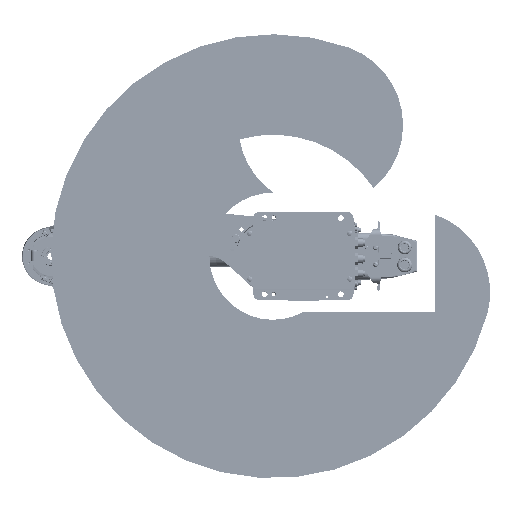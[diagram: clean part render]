
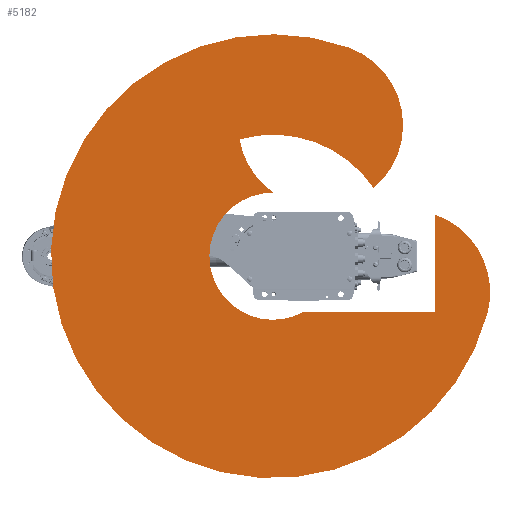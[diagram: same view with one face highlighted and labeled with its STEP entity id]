
A CAD part, front view. The second image highlights one B-rep face of the part: STEP entity #5182.
In plain terms, the highlighted planar face has unit normal (0, -1, 0).
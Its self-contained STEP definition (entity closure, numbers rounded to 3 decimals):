
#5182 = ADVANCED_FACE( '', ( #14228 ), #14229, .F. );
#14228 = FACE_OUTER_BOUND( '', #28487, .T. );
#14229 = PLANE( '', #28488 );
#28487 = EDGE_LOOP( '', ( #46027, #46028, #46029, #46030, #46031, #46032, #46033, #46034 ) );
#28488 = AXIS2_PLACEMENT_3D( '', #46035, #46036, #46037 );
#46027 = ORIENTED_EDGE( '', *, *, #78997, .T. );
#46028 = ORIENTED_EDGE( '', *, *, #79329, .F. );
#46029 = ORIENTED_EDGE( '', *, *, #79330, .F. );
#46030 = ORIENTED_EDGE( '', *, *, #79331, .F. );
#46031 = ORIENTED_EDGE( '', *, *, #79332, .F. );
#46032 = ORIENTED_EDGE( '', *, *, #79333, .T. );
#46033 = ORIENTED_EDGE( '', *, *, #79334, .T. );
#46034 = ORIENTED_EDGE( '', *, *, #79335, .T. );
#46035 = CARTESIAN_POINT( '', ( 28.47, 0., 106.252 ) );
#46036 = DIRECTION( '', ( 0., 1., 0. ) );
#46037 = DIRECTION( '', ( 0., 0., 1. ) );
#78997 = EDGE_CURVE( '', #93656, #93657, #93658, .T. );
#79329 = EDGE_CURVE( '', #94217, #93657, #94218, .T. );
#79330 = EDGE_CURVE( '', #94219, #94217, #94220, .T. );
#79331 = EDGE_CURVE( '', #94221, #94219, #94222, .T. );
#79332 = EDGE_CURVE( '', #94223, #94221, #94224, .T. );
#79333 = EDGE_CURVE( '', #94223, #94225, #94226, .T. );
#79334 = EDGE_CURVE( '', #94225, #94227, #94228, .T. );
#79335 = EDGE_CURVE( '', #94227, #93656, #94229, .T. );
#93656 = VERTEX_POINT( '', #115019 );
#93657 = VERTEX_POINT( '', #115020 );
#93658 = CIRCLE( '', #115021, 191.57 );
#94217 = VERTEX_POINT( '', #115977 );
#94218 = CIRCLE( '', #115978, 130. );
#94219 = VERTEX_POINT( '', #115979 );
#94220 = CIRCLE( '', #115980, 350. );
#94221 = VERTEX_POINT( '', #115981 );
#94222 = CIRCLE( '', #115982, 130. );
#94223 = VERTEX_POINT( '', #115983 );
#94224 = LINE( '', #115984, #115985 );
#94225 = VERTEX_POINT( '', #115986 );
#94226 = LINE( '', #115987, #115988 );
#94227 = VERTEX_POINT( '', #115989 );
#94228 = CIRCLE( '', #115990, 100.24 );
#94229 = CIRCLE( '', #115991, 130. );
#115019 = CARTESIAN_POINT( '', ( -184.156, 0., -52.78 ) );
#115020 = CARTESIAN_POINT( '', ( -107.145, 0., 158.805 ) );
#115021 = AXIS2_PLACEMENT_3D( '', #144971, #144972, #144973 );
#115977 = CARTESIAN_POINT( '', ( -328.892, 0., 119.707 ) );
#115978 = AXIS2_PLACEMENT_3D( '', #145315, #145316, #145317 );
#115979 = CARTESIAN_POINT( '', ( 90.587, 0., 338.074 ) );
#115980 = AXIS2_PLACEMENT_3D( '', #145318, #145319, #145320 );
#115981 = CARTESIAN_POINT( '', ( -65.918, 0., 255. ) );
#115982 = AXIS2_PLACEMENT_3D( '', #145321, #145322, #145323 );
#115983 = CARTESIAN_POINT( '', ( 88., 0., 255. ) );
#115984 = CARTESIAN_POINT( '', ( 28.47, 0., 255. ) );
#115985 = VECTOR( '', #145324, 1000. );
#115986 = CARTESIAN_POINT( '', ( 88., 0., 48.001 ) );
#115987 = CARTESIAN_POINT( '', ( 88., 0., 255. ) );
#115988 = VECTOR( '', #145325, 1000. );
#115989 = CARTESIAN_POINT( '', ( -100.238, 0., 0.687 ) );
#115990 = AXIS2_PLACEMENT_3D( '', #145326, #145327, #145328 );
#115991 = AXIS2_PLACEMENT_3D( '', #145329, #145330, #145331 );
#144971 = CARTESIAN_POINT( '', ( 0., 0., 0. ) );
#144972 = DIRECTION( '', ( 0., 1., 0. ) );
#144973 = DIRECTION( '', ( 1., 0., 0. ) );
#145315 = CARTESIAN_POINT( '', ( -206.732, 0., 75.244 ) );
#145316 = DIRECTION( '', ( 0., 1., 0. ) );
#145317 = DIRECTION( '', ( 1., 0., 0. ) );
#145318 = CARTESIAN_POINT( '', ( 0., 0., 0. ) );
#145319 = DIRECTION( '', ( 0., 1., 0. ) );
#145320 = DIRECTION( '', ( 1., 0., 0. ) );
#145321 = CARTESIAN_POINT( '', ( 56.94, 0., 212.504 ) );
#145322 = DIRECTION( '', ( 0., 1., 0. ) );
#145323 = DIRECTION( '', ( 1., 0., 0. ) );
#145324 = DIRECTION( '', ( -1., 0., 0. ) );
#145325 = DIRECTION( '', ( 0., 0., -1. ) );
#145326 = CARTESIAN_POINT( '', ( 0., 0., 0. ) );
#145327 = DIRECTION( '', ( 0., 1., 0. ) );
#145328 = DIRECTION( '', ( 1., 0., 0. ) );
#145329 = CARTESIAN_POINT( '', ( -206.732, 0., 75.244 ) );
#145330 = DIRECTION( '', ( 0., 1., 0. ) );
#145331 = DIRECTION( '', ( 1., 0., 0. ) );
